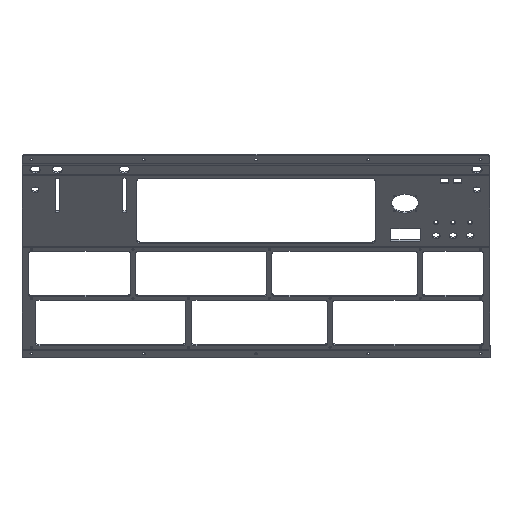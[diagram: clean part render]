
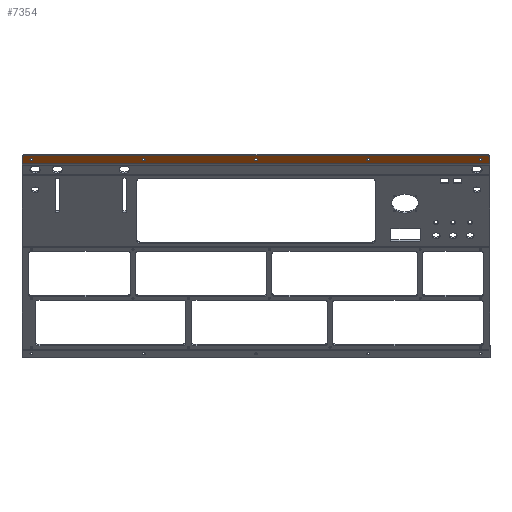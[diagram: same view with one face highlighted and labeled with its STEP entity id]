
A CAD part, front view. The second image highlights one B-rep face of the part: STEP entity #7354.
In plain terms, the highlighted planar face has unit normal (0, -0.707, -0.707).
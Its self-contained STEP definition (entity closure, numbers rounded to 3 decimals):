
#126=CIRCLE('',#7729,2.248);
#129=CIRCLE('',#7734,2.248);
#132=CIRCLE('',#7739,2.248);
#135=CIRCLE('',#7744,2.248);
#138=CIRCLE('',#7749,2.248);
#213=CIRCLE('',#7876,6.);
#214=CIRCLE('',#7879,6.);
#481=FACE_BOUND('',#1516,.T.);
#482=FACE_BOUND('',#1517,.T.);
#483=FACE_BOUND('',#1518,.T.);
#484=FACE_BOUND('',#1519,.T.);
#485=FACE_BOUND('',#1520,.T.);
#760=PLANE('',#7878);
#1117=FACE_OUTER_BOUND('',#1515,.T.);
#1515=EDGE_LOOP('',(#6393,#6394,#6395,#6396,#6397,#6398));
#1516=EDGE_LOOP('',(#6399));
#1517=EDGE_LOOP('',(#6400));
#1518=EDGE_LOOP('',(#6401));
#1519=EDGE_LOOP('',(#6402));
#1520=EDGE_LOOP('',(#6403));
#2277=LINE('',#12642,#2965);
#2280=LINE('',#12648,#2968);
#2281=LINE('',#12650,#2969);
#2282=LINE('',#12652,#2970);
#2965=VECTOR('',#9438,10.);
#2968=VECTOR('',#9443,4.32);
#2969=VECTOR('',#9444,10.);
#2970=VECTOR('',#9445,4.32);
#3667=VERTEX_POINT('',#12292);
#3670=VERTEX_POINT('',#12302);
#3673=VERTEX_POINT('',#12312);
#3676=VERTEX_POINT('',#12322);
#3679=VERTEX_POINT('',#12332);
#3779=VERTEX_POINT('',#12635);
#3780=VERTEX_POINT('',#12637);
#3781=VERTEX_POINT('',#12641);
#3783=VERTEX_POINT('',#12647);
#3784=VERTEX_POINT('',#12649);
#3785=VERTEX_POINT('',#12651);
#4572=EDGE_CURVE('',#3667,#3667,#126,.T.);
#4577=EDGE_CURVE('',#3670,#3670,#129,.T.);
#4582=EDGE_CURVE('',#3673,#3673,#132,.T.);
#4587=EDGE_CURVE('',#3676,#3676,#135,.T.);
#4592=EDGE_CURVE('',#3679,#3679,#138,.T.);
#4743=EDGE_CURVE('',#3779,#3780,#213,.T.);
#4745=EDGE_CURVE('',#3781,#3780,#2277,.T.);
#4748=EDGE_CURVE('',#3779,#3783,#2280,.T.);
#4749=EDGE_CURVE('',#3783,#3784,#2281,.T.);
#4750=EDGE_CURVE('',#3785,#3784,#2282,.T.);
#4751=EDGE_CURVE('',#3781,#3785,#214,.T.);
#6393=ORIENTED_EDGE('',*,*,#4743,.F.);
#6394=ORIENTED_EDGE('',*,*,#4748,.T.);
#6395=ORIENTED_EDGE('',*,*,#4749,.T.);
#6396=ORIENTED_EDGE('',*,*,#4750,.F.);
#6397=ORIENTED_EDGE('',*,*,#4751,.F.);
#6398=ORIENTED_EDGE('',*,*,#4745,.T.);
#6399=ORIENTED_EDGE('',*,*,#4572,.T.);
#6400=ORIENTED_EDGE('',*,*,#4577,.T.);
#6401=ORIENTED_EDGE('',*,*,#4582,.T.);
#6402=ORIENTED_EDGE('',*,*,#4587,.T.);
#6403=ORIENTED_EDGE('',*,*,#4592,.T.);
#7354=ADVANCED_FACE('',(#1117,#481,#482,#483,#484,#485),#760,.T.);
#7729=AXIS2_PLACEMENT_3D('',#12294,#9055,#9056);
#7734=AXIS2_PLACEMENT_3D('',#12304,#9067,#9068);
#7739=AXIS2_PLACEMENT_3D('',#12314,#9079,#9080);
#7744=AXIS2_PLACEMENT_3D('',#12324,#9091,#9092);
#7749=AXIS2_PLACEMENT_3D('',#12334,#9103,#9104);
#7876=AXIS2_PLACEMENT_3D('',#12638,#9433,#9434);
#7878=AXIS2_PLACEMENT_3D('',#12646,#9441,#9442);
#7879=AXIS2_PLACEMENT_3D('',#12653,#9446,#9447);
#9055=DIRECTION('center_axis',(0.,0.707,
0.707));
#9056=DIRECTION('ref_axis',(1.,0.,0.));
#9067=DIRECTION('center_axis',(0.,0.707,
0.707));
#9068=DIRECTION('ref_axis',(1.,0.,0.));
#9079=DIRECTION('center_axis',(0.,0.707,
0.707));
#9080=DIRECTION('ref_axis',(1.,0.,0.));
#9091=DIRECTION('center_axis',(0.,0.707,
0.707));
#9092=DIRECTION('ref_axis',(1.,0.,0.));
#9103=DIRECTION('center_axis',(0.,0.707,
0.707));
#9104=DIRECTION('ref_axis',(1.,0.,0.));
#9433=DIRECTION('center_axis',(0.,0.707,
0.707));
#9434=DIRECTION('ref_axis',(-0.707,-0.5,0.5));
#9438=DIRECTION('',(-1.,0.,0.));
#9441=DIRECTION('center_axis',(0.,-0.707,
-0.707));
#9442=DIRECTION('ref_axis',(-1.,0.,0.));
#9443=DIRECTION('',(0.,0.707,-0.707));
#9444=DIRECTION('',(1.,0.,0.));
#9445=DIRECTION('',(0.,0.707,-0.707));
#9446=DIRECTION('center_axis',(0.,0.707,
0.707));
#9447=DIRECTION('ref_axis',(0.707,-0.5,0.5));
#12292=CARTESIAN_POINT('',(262.902,-108.742,130.993));
#12294=CARTESIAN_POINT('Origin',(265.15,-108.742,130.993));
#12302=CARTESIAN_POINT('',(-81.098,-108.742,130.993));
#12304=CARTESIAN_POINT('Origin',(-78.85,-108.742,130.993));
#12312=CARTESIAN_POINT('',(-253.098,-108.742,130.993));
#12314=CARTESIAN_POINT('Origin',(-250.85,-108.742,130.993));
#12322=CARTESIAN_POINT('',(90.902,-108.742,130.993));
#12324=CARTESIAN_POINT('Origin',(93.15,-108.742,130.993));
#12332=CARTESIAN_POINT('',(434.902,-108.742,130.993));
#12334=CARTESIAN_POINT('Origin',(437.15,-108.742,130.993));
#12635=CARTESIAN_POINT('',(-265.35,-111.111,133.362));
#12637=CARTESIAN_POINT('',(-259.35,-115.354,137.604));
#12638=CARTESIAN_POINT('Origin',(-259.35,-111.111,133.362));
#12641=CARTESIAN_POINT('',(445.65,-115.354,137.604));
#12642=CARTESIAN_POINT('',(451.65,-115.354,137.604));
#12646=CARTESIAN_POINT('Origin',(93.15,-29.936,52.187));
#12647=CARTESIAN_POINT('',(-265.35,-102.969,125.22));
#12648=CARTESIAN_POINT('',(-265.35,-93.372,115.623));
#12649=CARTESIAN_POINT('',(451.65,-102.969,125.22));
#12650=CARTESIAN_POINT('',(93.15,-102.969,125.22));
#12651=CARTESIAN_POINT('',(451.65,-111.111,133.362));
#12652=CARTESIAN_POINT('',(451.65,-93.372,115.623));
#12653=CARTESIAN_POINT('Origin',(445.65,-111.111,133.362));
